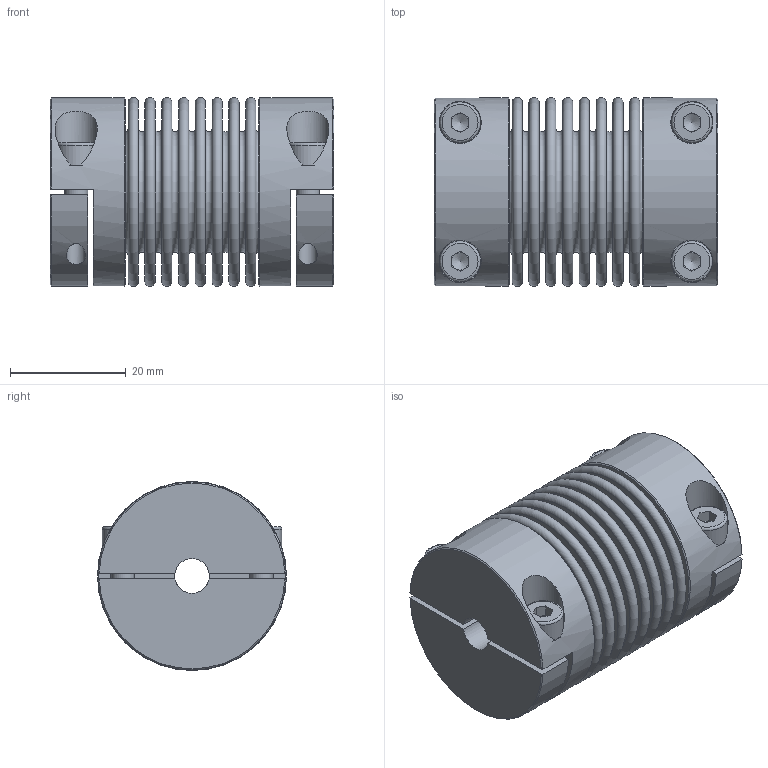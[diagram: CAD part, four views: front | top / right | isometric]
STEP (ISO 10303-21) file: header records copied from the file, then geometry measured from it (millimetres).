
FILE_DESCRIPTION( ( 'Unknown' ), '1' );
FILE_NAME( 'K:/Konstruktion/KB2H/KB2H-45-50.stp', 'Unknown', ( 'Unknown' ), ( 'Unknown' ), 'PSStep 16.0.42', 'Unknown', ' ' );
FILE_SCHEMA( ( 'AUTOMOTIVE_DESIGN { 1 0 10303 214 1 1 1 1 }' ) );
Length unit declared in the file: millimetre
Products named in the file (5): Assem1; KNH-45; Socket Head Cap Screw_DIN_DIN 912 M4 x 12 --- 12N_2; BL45_Standard_0
Assembly tree (9 placements, depth 2):
  Assem1
    KNH-45  x2
    KNH-45  x2
    Socket Head Cap Screw_DIN_DIN 912 M4 x 12 --- 12N_2  x4
    BL45_Standard_0
Bounding box: 49.05 x 32.67 x 32.67 mm (x, y, z)
Volume: 22324.5 mm3; surface area: 31339.3 mm2
Topology: 9 solids, 9 shells, 212 faces, 416 edges, 264 vertices
Faces by surface type: plane 120, torus 46, cylinder 32, cone 14
Full cylindrical faces by diameter (mm): 3.242 x4, 4 x4, 4.2 x4, 6 x2, 7 x4, 28.2 x2, 28.8 x2, 32.5 x2
Entity records: 4196 total; most frequent: CARTESIAN_POINT 702, DIRECTION 540, ORIENTED_EDGE 328, AXIS2_PLACEMENT_3D 249, EDGE_LOOP 230, FACE_OUTER_BOUND 177, EDGE_CURVE 164, VERTEX_POINT 157
